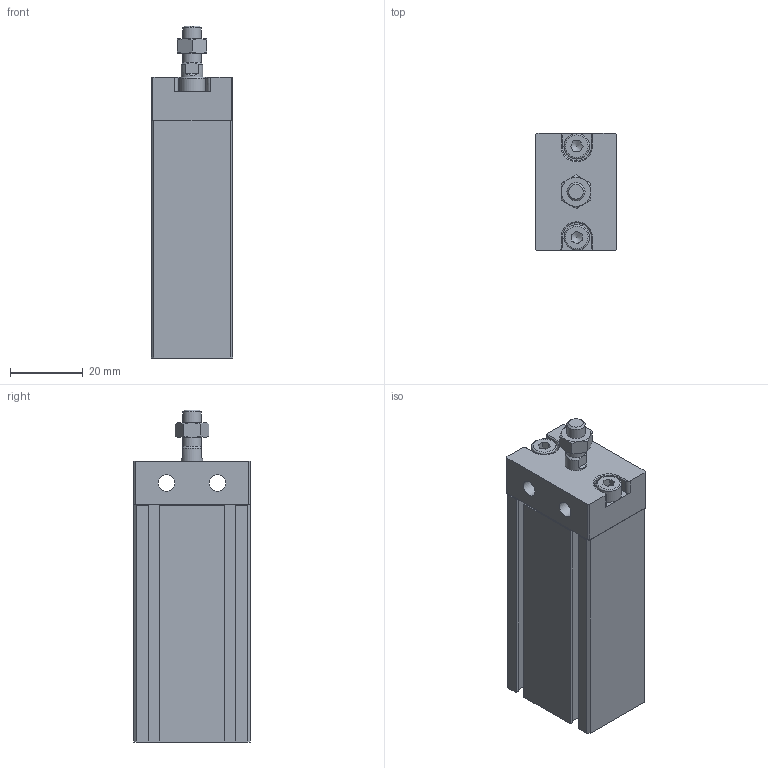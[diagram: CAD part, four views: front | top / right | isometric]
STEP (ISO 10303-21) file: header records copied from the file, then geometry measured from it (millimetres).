
FILE_DESCRIPTION((''),'2;1');
FILE_NAME('I:\3D電子目錄\氣缸\ND\ND\ND16-B\ND16x40-B.stp','2007-07-23T19:22:23',('Administrator'),(''),'Autodesk Inventor 11','Autodesk Inventor 11','');
FILE_SCHEMA(('AUTOMOTIVE_DESIGN { 1 0 10303 214 1 1 1 1 }'));
Length unit declared in the file: millimetre
Products named in the file (4): ND16-B; R 形環 18; ISO 4762 M4 x 10
Assembly tree (4 placements, depth 2):
  ND16-B
    ND16-B
    R 形環 18
    ISO 4762 M4 x 10  x2
Bounding box: 22.4 x 32.1 x 91 mm (x, y, z)
Volume: 47820.8 mm3; surface area: 16014 mm2
Topology: 5 solids, 5 shells, 190 faces, 450 edges, 285 vertices
Faces by surface type: plane 117, cylinder 28, cone 28, bspline 14, torus 3
Full cylindrical faces by diameter (mm): 1.5 x4, 4 x2, 4.5 x2, 5 x2, 6 x1, 7 x2, 10 x1, 18 x1, 19 x1
Entity records: 5015 total; most frequent: CARTESIAN_POINT 1070, DIRECTION 784, ORIENTED_EDGE 754, EDGE_CURVE 377, AXIS2_PLACEMENT_3D 271, VERTEX_POINT 259, VECTOR 242, LINE 242
